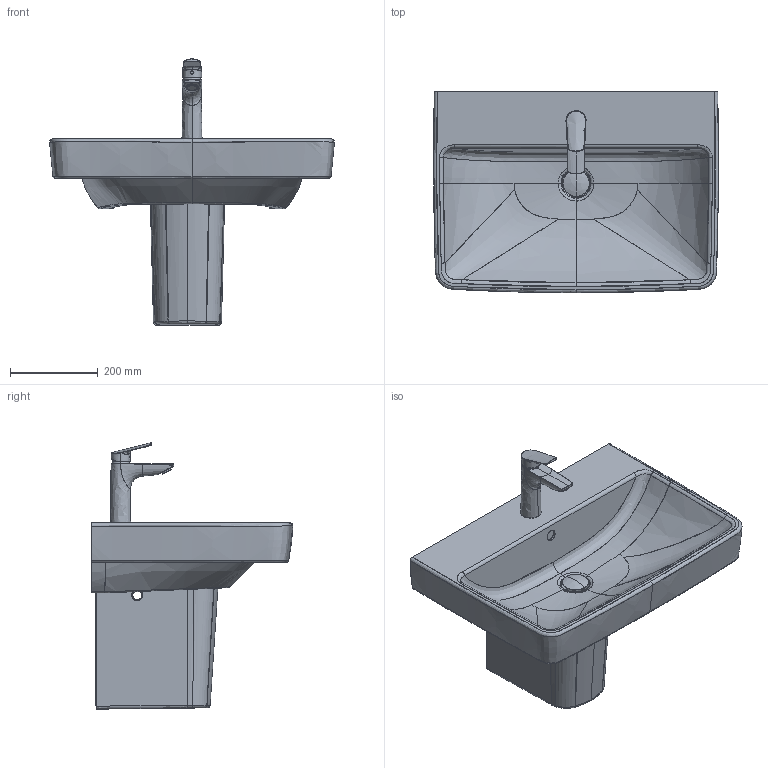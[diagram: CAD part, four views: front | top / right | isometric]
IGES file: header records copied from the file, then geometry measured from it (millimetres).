
Global section: file name: d:\users\matthias.isele\Desktop\Planungsdaten_erstellen\Duravit_No_1\237565\3D\237565_085845.igs; native system: Rhinoceros ( Sep 13 2016 ); preprocessor: Trout Lake IGES 012 Sep 13 2016; date: 210920.125550; units: millimetre
Bounding box: 650.24 x 460.1 x 607.93 mm (x, y, z)
Surface area: 1557049.5 mm2 (no closed solid volume)
Topology: 0 solids, 0 shells, 573 faces, 5554 edges, 5548 vertices
Faces by surface type: bspline 573
